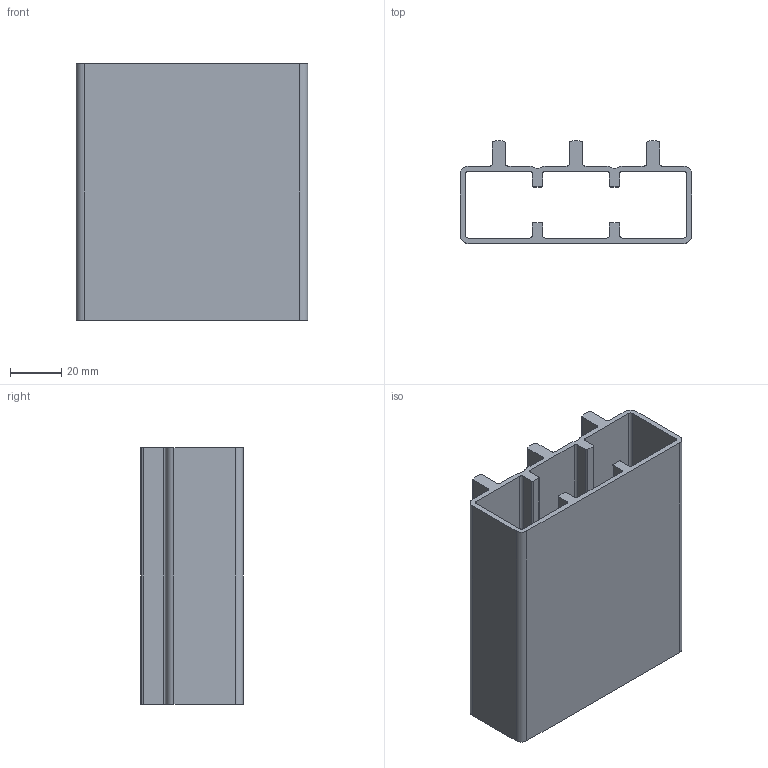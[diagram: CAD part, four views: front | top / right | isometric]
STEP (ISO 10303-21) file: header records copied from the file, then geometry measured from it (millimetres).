
FILE_DESCRIPTION (( 'STEP AP203' ), '1' );
FILE_NAME ('013.030.018.STEP', '2021-03-22T07:16:55', ( '' ), ( '' ), 'SwSTEP 2.0', 'SolidWorks 2018', '' );
FILE_SCHEMA (( 'CONFIG_CONTROL_DESIGN' ));
Length unit declared in the file: millimetre
Products named in the file (1): 013.030.018
Bounding box: 90 x 39.99 x 100 mm (x, y, z)
Volume: 69711.3 mm3; surface area: 56827.3 mm2
Topology: 1 solids, 1 shells, 88 faces, 258 edges, 172 vertices
Faces by surface type: cylinder 45, plane 43
Entity records: 3033 total; most frequent: DIRECTION 526, CARTESIAN_POINT 519, ORIENTED_EDGE 516, EDGE_CURVE 258, AXIS2_PLACEMENT_3D 179, VERTEX_POINT 172, VECTOR 168, LINE 168
